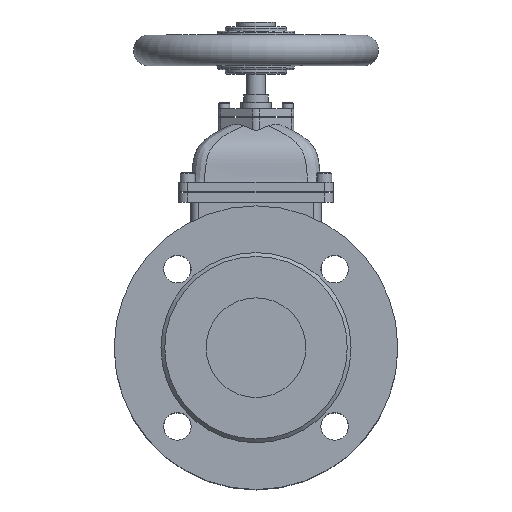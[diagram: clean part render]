
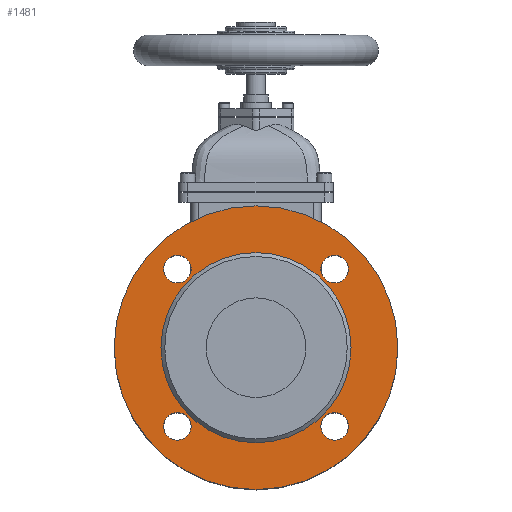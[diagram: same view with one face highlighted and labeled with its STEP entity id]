
A CAD part, top view. The second image highlights one B-rep face of the part: STEP entity #1481.
In plain terms, the highlighted planar face has unit normal (0, 0, 1).
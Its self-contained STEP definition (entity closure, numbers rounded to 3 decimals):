
#1481=ADVANCED_FACE('',(#4307,#4309,#4311,#4313,#4315,#4317),#4319,.T.);
#4307=FACE_BOUND('',#4308,.T.);
#4308=EDGE_LOOP('',(#10743));
#4309=FACE_BOUND('',#4310,.T.);
#4310=EDGE_LOOP('',(#10744));
#4311=FACE_BOUND('',#4312,.T.);
#4312=EDGE_LOOP('',(#10745));
#4313=FACE_BOUND('',#4314,.T.);
#4314=EDGE_LOOP('',(#10746));
#4315=FACE_BOUND('',#4316,.T.);
#4316=EDGE_LOOP('',(#10747));
#4317=FACE_BOUND('',#4318,.T.);
#4318=EDGE_LOOP('',(#10748));
#4319=PLANE('',#4320);
#4320=AXIS2_PLACEMENT_3D('',#4321,#4322,#4323);
#4321=CARTESIAN_POINT('',(0.,0.,82.5));
#4322=DIRECTION('',(0.,0.,1.));
#4323=DIRECTION('',(0.,1.,0.));
#10743=ORIENTED_EDGE('',*,*,#11952,.F.);
#10744=ORIENTED_EDGE('',*,*,#11956,.T.);
#10745=ORIENTED_EDGE('',*,*,#11955,.T.);
#10746=ORIENTED_EDGE('',*,*,#11954,.T.);
#10747=ORIENTED_EDGE('',*,*,#11973,.T.);
#10748=ORIENTED_EDGE('',*,*,#11953,.T.);
#11952=EDGE_CURVE('',#12974,#12974,#12975,.T.);
#11953=EDGE_CURVE('',#12976,#12976,#12977,.F.);
#11954=EDGE_CURVE('',#12978,#12978,#12979,.F.);
#11955=EDGE_CURVE('',#12980,#12980,#12981,.F.);
#11956=EDGE_CURVE('',#12982,#12982,#12983,.F.);
#11973=EDGE_CURVE('',#13008,#13008,#13009,.T.);
#12974=VERTEX_POINT('',#15126);
#12975=CIRCLE('',#15127,92.5);
#12976=VERTEX_POINT('',#15131);
#12977=CIRCLE('',#15132,9.);
#12978=VERTEX_POINT('',#15136);
#12979=CIRCLE('',#15137,9.);
#12980=VERTEX_POINT('',#15141);
#12981=CIRCLE('',#15142,9.);
#12982=VERTEX_POINT('',#15146);
#12983=CIRCLE('',#15147,9.);
#13008=VERTEX_POINT('',#15211);
#13009=CIRCLE('',#15212,62.);
#15126=CARTESIAN_POINT('',(0.,92.5,82.5));
#15127=AXIS2_PLACEMENT_3D('',#15128,#15129,#15130);
#15128=CARTESIAN_POINT('',(0.,0.,82.5));
#15129=DIRECTION('',(0.,0.,-1.));
#15130=DIRECTION('',(0.,1.,0.));
#15131=CARTESIAN_POINT('',(60.265,51.265,82.5));
#15132=AXIS2_PLACEMENT_3D('',#15133,#15134,#15135);
#15133=CARTESIAN_POINT('',(51.265,51.265,82.5));
#15134=DIRECTION('',(0.,0.,1.));
#15135=DIRECTION('',(1.,0.,0.));
#15136=CARTESIAN_POINT('',(-51.265,60.265,82.5));
#15137=AXIS2_PLACEMENT_3D('',#15138,#15139,#15140);
#15138=CARTESIAN_POINT('',(-51.265,51.265,82.5));
#15139=DIRECTION('',(0.,0.,1.));
#15140=DIRECTION('',(0.,1.,0.));
#15141=CARTESIAN_POINT('',(-60.265,-51.265,82.5));
#15142=AXIS2_PLACEMENT_3D('',#15143,#15144,#15145);
#15143=CARTESIAN_POINT('',(-51.265,-51.265,82.5));
#15144=DIRECTION('',(0.,0.,1.));
#15145=DIRECTION('',(-1.,0.,0.));
#15146=CARTESIAN_POINT('',(51.265,-60.265,82.5));
#15147=AXIS2_PLACEMENT_3D('',#15148,#15149,#15150);
#15148=CARTESIAN_POINT('',(51.265,-51.265,82.5));
#15149=DIRECTION('',(0.,0.,1.));
#15150=DIRECTION('',(0.,-1.,0.));
#15211=CARTESIAN_POINT('',(0.,62.,82.5));
#15212=AXIS2_PLACEMENT_3D('',#15213,#15214,#15215);
#15213=CARTESIAN_POINT('',(0.,0.,82.5));
#15214=DIRECTION('',(0.,0.,-1.));
#15215=DIRECTION('',(0.,1.,0.));
